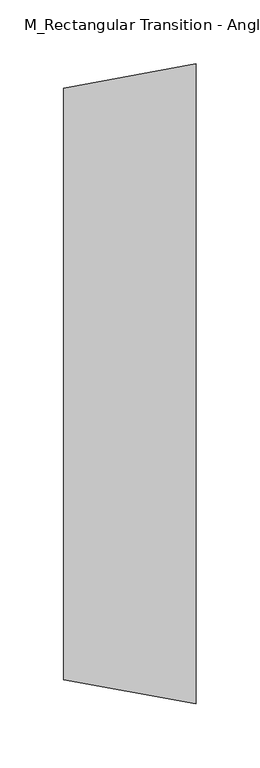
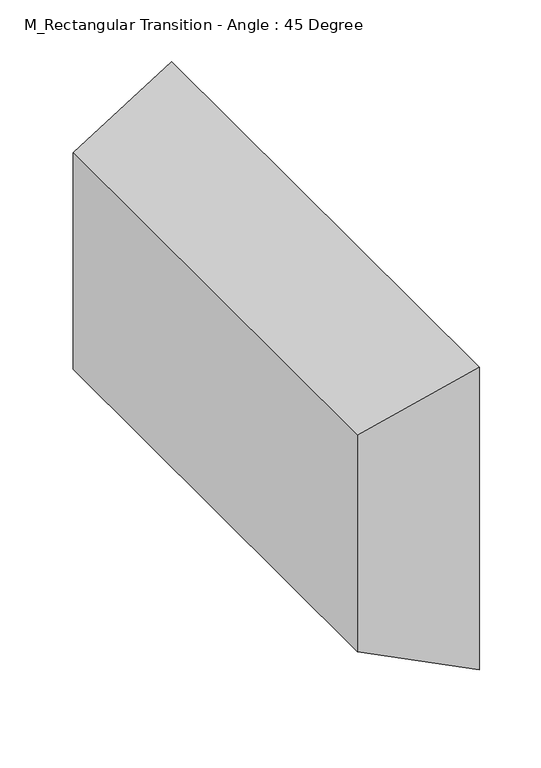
"""IFC4 building model written with IfcOpenShell, lengths in millimetres: duct fitting geometry, M_Rectangular Transition - Angle : 45 Degree."""

import ifcopenshell
import ifcopenshell.guid

model = None  # the IFC model being written
_history = None  # IfcOwnerHistory: only IFC2X3 demands one
_inside = {}  # id of a spatial element -> (the spatial element, [elements in it])
_under = {}  # id of a project, library or spatial element -> (it, [spatial elements below it])
_declared = {}  # id of a project -> (the project, [libraries it declares])
_typed = {}  # id of a type object -> (the type object, [elements of that type])
_made_of = {}  # id of a material, layer set ... -> (it, [elements and type objects made of it])


def new_model(schema):
    """Start an empty IFC model of exactly this schema.

    Asked for "IFC4X3", IfcOpenShell would pick the latest addendum, in which some entities
    have other attributes; the version numbers below select the first issue.
    IFC2X3 requires an IfcOwnerHistory on every rooted entity: one is made here for all.
    """
    global model, _history
    if schema == "IFC4X3":
        model = ifcopenshell.file(schema_version=(4, 3, 0, 0))
    else:
        model = ifcopenshell.file(schema=schema)
    _inside.clear()
    _under.clear()
    _declared.clear()
    _typed.clear()
    _made_of.clear()
    _history = None
    if model.schema == "IFC2X3":
        org = make("IfcOrganization", Name="unknown")
        user = make(
            "IfcPersonAndOrganization",
            ThePerson=make("IfcPerson", FamilyName="unknown"),
            TheOrganization=org,
        )
        app = make(
            "IfcApplication",
            ApplicationDeveloper=org,
            Version="unknown",
            ApplicationFullName="unknown",
            ApplicationIdentifier="unknown",
        )
        _history = make(
            "IfcOwnerHistory",
            OwningUser=user,
            OwningApplication=app,
            ChangeAction="ADDED",
            CreationDate=0,
        )
    return model


def make(cls, **values):
    """One entity of the class cls with the attributes given. An attribute that is None is left unset."""
    return model.create_entity(
        cls, **{name: value for name, value in values.items() if value is not None}
    )


def rooted(cls, **values):
    """An entity with a GlobalId (a new one), such as an element, a storey or a relation."""
    return make(cls, GlobalId=ifcopenshell.guid.new(), OwnerHistory=_history, **values)


def si_unit(unit_type, name, prefix=None):
    """IfcSIUnit, for example si_unit("LENGTHUNIT", "METRE", prefix="MILLI")."""
    return make("IfcSIUnit", UnitType=unit_type, Prefix=prefix, Name=name)


def assignment(units):
    """IfcUnitAssignment: the units of a project."""
    return None if units is None else make("IfcUnitAssignment", Units=units)


def point(xyz):
    """IfcCartesianPoint."""
    return None if xyz is None else make("IfcCartesianPoint", Coordinates=xyz)


def direction(xyz):
    """IfcDirection."""
    return None if xyz is None else make("IfcDirection", DirectionRatios=xyz)


def frame(location, z_axis=None, x_axis=None):
    """IfcAxis2Placement3D, a coordinate frame: its origin and axes. An axis left out is left unset."""
    return make(
        "IfcAxis2Placement3D",
        Location=point(location),
        Axis=direction(z_axis),
        RefDirection=direction(x_axis),
    )


def origin():
    """The frame at (0, 0, 0) with its axes left unset."""
    return frame((0.0, 0.0, 0.0))


def place(relative_to, where):
    """IfcLocalPlacement: puts the frame where relative to a parent placement (None: the world)."""
    return make(
        "IfcLocalPlacement", PlacementRelTo=relative_to, RelativePlacement=where
    )


def context(
    kind, dimensions, precision=None, world=None, true_north=None, identifier=None
):
    """IfcGeometricRepresentationContext, for example the 3D "Model" context."""
    return make(
        "IfcGeometricRepresentationContext",
        ContextIdentifier=identifier,
        ContextType=kind,
        CoordinateSpaceDimension=dimensions,
        Precision=precision,
        WorldCoordinateSystem=world,
        TrueNorth=true_north,
    )


def project(units=None, contexts=None):
    """IfcProject with its units and contexts."""
    return rooted(
        "IfcProject",
        Name="project",
        RepresentationContexts=contexts,
        UnitsInContext=assignment(units),
    )


def spatial(cls, under=None, at=None, **own):
    """A site, building, storey or space (cls), placed at a placement, below another one or the project."""
    s = rooted(cls, ObjectPlacement=at, **own)
    if under is not None:
        _under.setdefault(under.id(), (under, []))[1].append(s)
    return s


def faces_of(points, faces, orient=None, outer=None):
    """IfcFace entities. A face is a list of loops; a loop is a list of indices into points, from 0.

    orient and outer hold one flag for each loop. By default every Orientation is true, the
    first loop of a face is its IfcFaceOuterBound and the others are IfcFaceBound.
    """
    made = []
    for i, loops in enumerate(faces):
        bounds = []
        for j, loop in enumerate(loops):
            is_outer = j == 0 if outer is None else outer[i][j]
            bounds.append(
                make(
                    "IfcFaceOuterBound" if is_outer else "IfcFaceBound",
                    Bound=make("IfcPolyLoop", Polygon=[points[k] for k in loop]),
                    Orientation=True if orient is None else orient[i][j],
                )
            )
        made.append(make("IfcFace", Bounds=bounds))
    return made


def faceted_brep(points, faces, orient=None, outer=None, voids=None):
    """IfcFacetedBrep: a solid bounded by flat faces; with voids (closed shells), ...WithVoids."""
    shared = [point(p) for p in points]
    hull = make("IfcClosedShell", CfsFaces=faces_of(shared, faces, orient, outer))
    if voids is None:
        return make("IfcFacetedBrep", Outer=hull)
    return make(
        "IfcFacetedBrepWithVoids",
        Outer=hull,
        Voids=[
            make(cls, CfsFaces=faces_of(shared, fs, o, b)) for cls, fs, o, b in voids
        ],
    )


def shape(context_of_items, identifier, shape_type, items):
    """IfcShapeRepresentation: the items that make up one representation, for example the "Body"."""
    return make(
        "IfcShapeRepresentation",
        ContextOfItems=context_of_items,
        RepresentationIdentifier=identifier,
        RepresentationType=shape_type,
        Items=items,
    )


def source(mapping_origin, context_of_items, identifier, shape_type, items):
    """IfcRepresentationMap: a shape defined once, which mapped items show again and again."""
    return make(
        "IfcRepresentationMap",
        MappingOrigin=mapping_origin,
        MappedRepresentation=shape(context_of_items, identifier, shape_type, items),
    )


def transform(
    local_origin,
    x_axis=None,
    y_axis=None,
    z_axis=None,
    scale=None,
    scale2=None,
    scale3=None,
    uniform=True,
):
    """IfcCartesianTransformationOperator3D, or its non-uniform kind. x_axis, y_axis, z_axis: its Axis1, 2, 3."""
    if uniform:
        return make(
            "IfcCartesianTransformationOperator3D",
            Axis1=direction(x_axis),
            Axis2=direction(y_axis),
            LocalOrigin=point(local_origin),
            Scale=scale,
            Axis3=direction(z_axis),
        )
    return make(
        "IfcCartesianTransformationOperator3DnonUniform",
        Axis1=direction(x_axis),
        Axis2=direction(y_axis),
        LocalOrigin=point(local_origin),
        Scale=scale,
        Axis3=direction(z_axis),
        Scale2=scale2,
        Scale3=scale3,
    )


def mapped(mapping_source, mapping_target):
    """IfcMappedItem: shows the shape of a source again, moved by a transform."""
    return make(
        "IfcMappedItem", MappingSource=mapping_source, MappingTarget=mapping_target
    )


def made_of(thing, what):
    """Note that an element or type object is made of a material, layer set ...; save() writes the relation."""
    if what is not None:
        _made_of.setdefault(what.id(), (what, []))[1].append(thing)
    return thing


def element(
    cls,
    number,
    at=None,
    inside=None,
    cuts=None,
    type_object=None,
    material=None,
    context=None,
    identifier="Body",
    shape_type=None,
    held_by="IfcProductDefinitionShape",
    body=None,
    shapes=None,
    **own,
):
    """One element of the class cls, such as IfcWall. Its Tag is "e" and its number.

    at: its placement. inside: the storey or other place that contains it. cuts: it is an
    opening in that element (IfcRelVoidsElement). A single representation is given by context,
    identifier, shape_type and body (its items); several are given by shapes. held_by: the class
    of the entity that holds the representations. save() writes the other relations.
    """
    e = rooted(cls, Tag="e%d" % number, ObjectPlacement=at, **own)
    if body is not None:
        shapes = [shape(context, identifier, shape_type, body)]
    if shapes is not None:
        e.Representation = make(held_by, Representations=shapes)
    if inside is not None:
        _inside.setdefault(inside.id(), (inside, []))[1].append(e)
    if cuts is not None:
        rooted(
            "IfcRelVoidsElement", RelatingBuildingElement=cuts, RelatedOpeningElement=e
        )
    if type_object is not None:
        _typed.setdefault(type_object.id(), (type_object, []))[1].append(e)
    return made_of(e, material)


def aggregate(whole, parts):
    """IfcRelAggregates: a whole, such as a stair, and the parts it consists of."""
    return rooted("IfcRelAggregates", RelatingObject=whole, RelatedObjects=parts)


def save(model, path):
    """Write the relations noted so far, then the file.

    IfcRelAggregates (storeys below a building ...), IfcRelContainedInSpatialStructure (elements
    in a storey), IfcRelDefinesByType, IfcRelAssociatesMaterial and IfcRelDeclares: one each for
    every whole, place, type object, material and project.
    """
    for whole, parts in _under.values():
        aggregate(whole, parts)
    for where, things in _inside.values():
        rooted(
            "IfcRelContainedInSpatialStructure",
            RelatedElements=things,
            RelatingStructure=where,
        )
    for kind, things in _typed.values():
        rooted("IfcRelDefinesByType", RelatedObjects=things, RelatingType=kind)
    for what, things in _made_of.values():
        rooted("IfcRelAssociatesMaterial", RelatedObjects=things, RelatingMaterial=what)
    for by, libraries in _declared.values():
        rooted("IfcRelDeclares", RelatingContext=by, RelatedDefinitions=libraries)
    model.write(path)


def m_rectangular_transition_angle_45_degree_2b595dfe(model_context):
    return source(origin(), model_context, "Body", "Brep", [
        faceted_brep([(103.4792288, -250.0, 150.0), (103.4792288, -250.0, -150.0), (103.4792288, 250.0, -150.0), (103.4792288, 250.0, 150.0), (0.0, -230.9375, 107.1375), (0.0, 230.9375, 107.1375), (0.0, 230.9375, -107.1375), (0.0, -230.9375, -107.1375)], [[[0, 1, 2, 3]], [[4, 5, 6, 7]], [[4, 7, 1, 0]], [[7, 6, 2, 1]], [[6, 5, 3, 2]], [[5, 4, 0, 3]]]),
    ])


if __name__ == "__main__":
    model = new_model("IFC4")
    model_context = context("Model", 3, world=origin())
    ifc_project = project(units=[si_unit("LENGTHUNIT", "METRE", prefix="MILLI")], contexts=[model_context])
    site = spatial("IfcSite", under=ifc_project)
    building = spatial("IfcBuilding", under=site)
    placement = place(None, origin())
    m_rectangular_transition_angle_45_degree_shape = m_rectangular_transition_angle_45_degree_2b595dfe(model_context)
    element("IfcDuctFitting", 1, ObjectType="M_Rectangular Transition - Angle : 45 Degree", at=placement, inside=building, context=model_context, shape_type="MappedRepresentation", body=[
        mapped(m_rectangular_transition_angle_45_degree_shape, transform((0.0, 0.0, 0.0), x_axis=(1.0, 0.0, 0.0), y_axis=(0.0, 1.0, 0.0), z_axis=(0.0, 0.0, 1.0))),
    ])
    save(model, "model.ifc")
